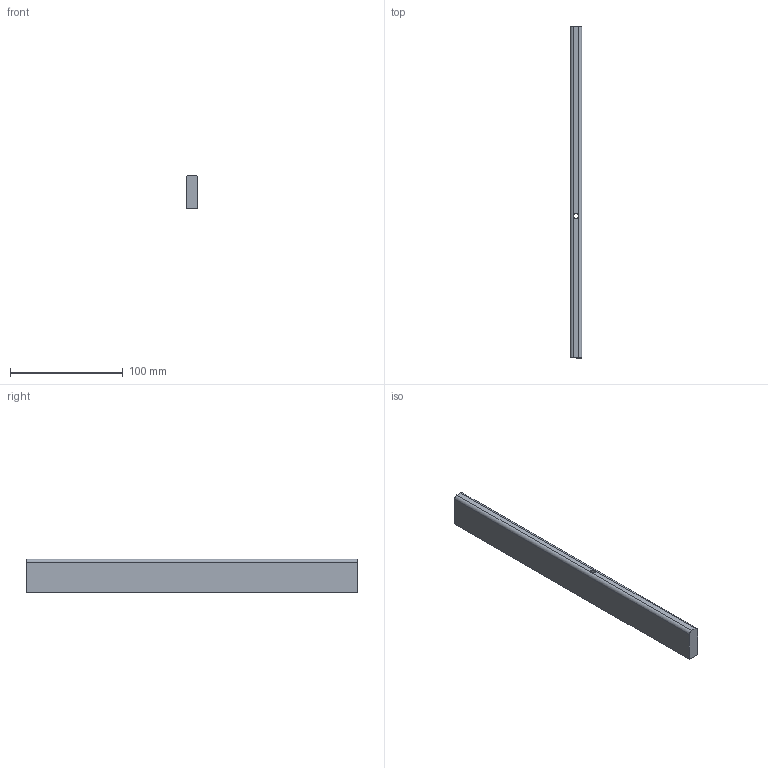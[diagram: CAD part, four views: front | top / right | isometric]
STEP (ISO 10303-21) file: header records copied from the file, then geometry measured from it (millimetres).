
FILE_DESCRIPTION (( 'STEP AP214' ), '1' );
FILE_NAME ('_Seitenreling_SP60702400_RL295.step', '2010-09-06T14:52:06', ( 'grass' ), ( '' ), 'SwSTEP 2.0', 'SolidWorks 2010', '' );
FILE_SCHEMA (( 'AUTOMOTIVE_DESIGN' ));
Length unit declared in the file: millimetre
Products named in the file (1): _Seitenreling_SP60702400_RL295
Bounding box: 10.5 x 295 x 30 mm (x, y, z)
Volume: 90866.4 mm3; surface area: 24296 mm2
Topology: 1 solids, 1 shells, 14 faces, 34 edges, 22 vertices
Faces by surface type: plane 8, cylinder 6
Entity records: 454 total; most frequent: DIRECTION 78, CARTESIAN_POINT 71, ORIENTED_EDGE 68, EDGE_CURVE 34, AXIS2_PLACEMENT_3D 29, VERTEX_POINT 22, LINE 20, VECTOR 20
